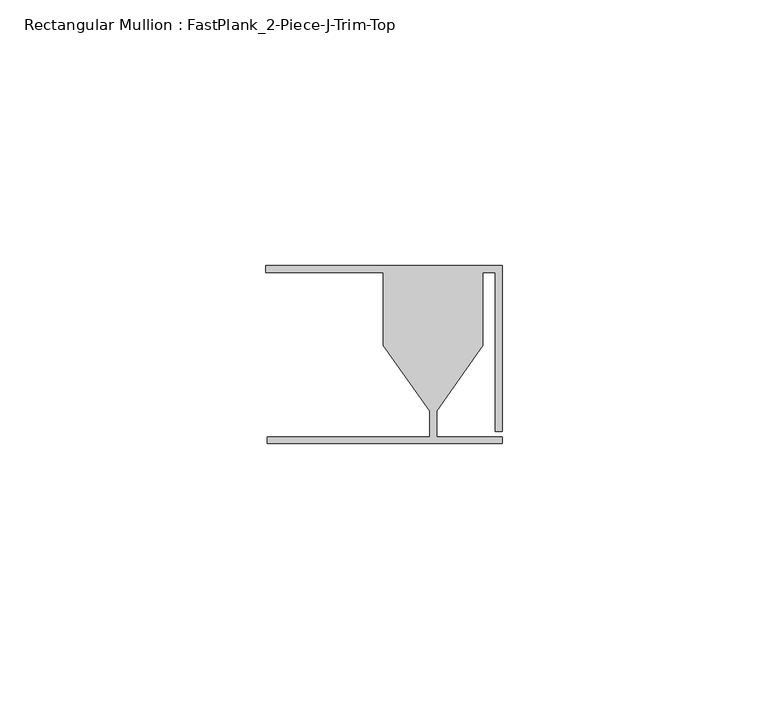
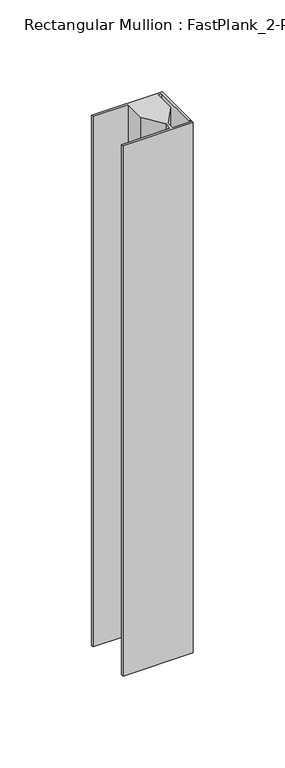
"""IFC4 building model written with IfcOpenShell, lengths in millimetres: member geometry, Rectangular Mullion : FastPlank_2-Piece-J-Trim-Top."""

from ifc_helpers import new_model, si_unit, frame, origin, place, context, project, spatial, polyline, outline, extrude, source, transform, mapped, element, save


def rectangular_mullion_fastplank_2_piece_j_trim_top_9bf006b1(model_context):
    return source(origin(), model_context, "Body", "SweptSolid", [
        extrude(outline(polyline([(0.0, -11.8625052), (-44.2023711, -11.8625052), (-44.2023711, -10.5618154), (-13.6176438, -10.5618154), (-13.6176438, -5.7038113), (-22.3299553, 6.6543757), (-22.3299553, 20.3381228), (-44.4475015, 20.3381228), (-44.4475015, 21.6381202), (0.0, 21.6381202), (0.0, -9.5619969), (-1.2999974, -9.5619969), (-1.2999974, 20.3381228), (-3.6053348, 20.3381228), (-3.6053348, 6.6543757), (-12.3176464, -5.7038113), (-12.3176464, -10.5618154), (0.0, -10.5618154), (0.0, -11.8625052)])), frame((0.0, 0.0, -352.4435883), z_axis=(0.0, 0.0, 1.0), x_axis=(1.0, 0.0, 0.0)), (0.0, 0.0, 1.0), 352.4435883),
    ])


if __name__ == "__main__":
    model = new_model("IFC4")
    model_context = context("Model", 3, world=origin())
    ifc_project = project(units=[si_unit("LENGTHUNIT", "METRE", prefix="MILLI")], contexts=[model_context])
    site = spatial("IfcSite", under=ifc_project)
    building = spatial("IfcBuilding", under=site)
    placement = place(None, origin())
    rectangular_mullion_fastplank_2_piece_j_trim_top_shape = rectangular_mullion_fastplank_2_piece_j_trim_top_9bf006b1(model_context)
    element("IfcMember", 1, ObjectType="Rectangular Mullion : FastPlank_2-Piece-J-Trim-Top", at=placement, inside=building, context=model_context, shape_type="MappedRepresentation", body=[
        mapped(rectangular_mullion_fastplank_2_piece_j_trim_top_shape, transform((0.0, 0.0, 0.0), x_axis=(1.0, 0.0, 0.0), y_axis=(0.0, 1.0, 0.0), z_axis=(0.0, 0.0, 1.0))),
    ])
    save(model, "model.ifc")
